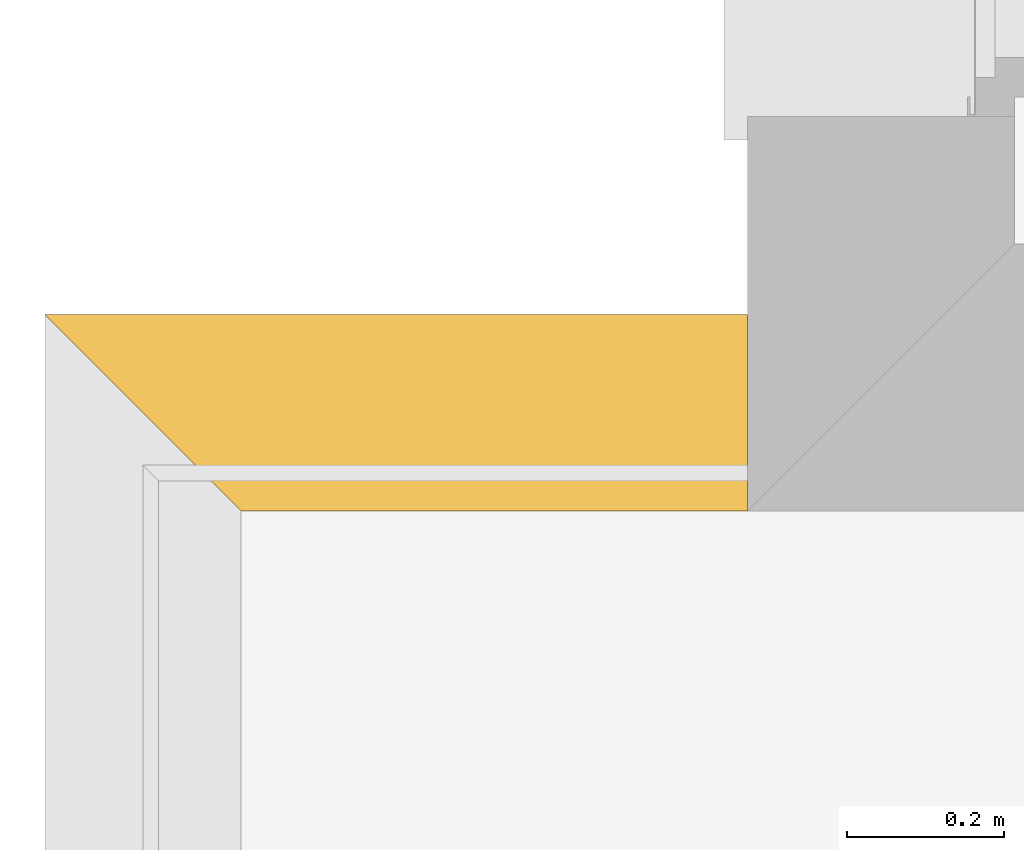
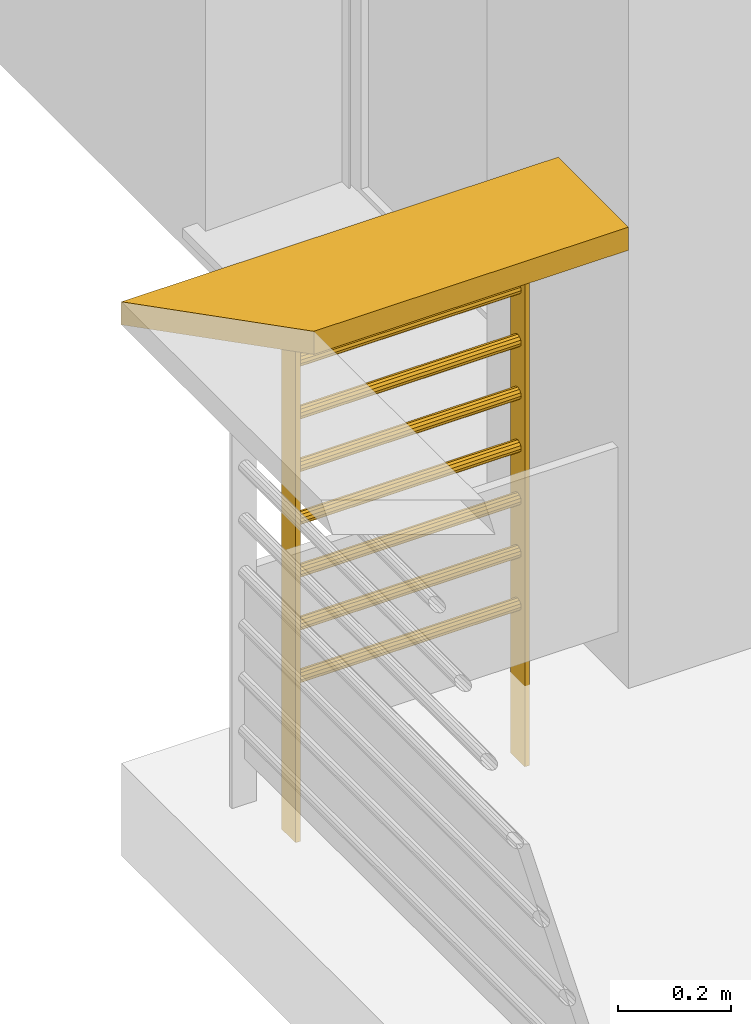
# One storey, part 103 of 164: 1 railing.
"""IFC2X3 building model written with IfcOpenShell, lengths in millimetres."""

from ifc_helpers import new_model, entity, si_unit, converted_unit, derived_unit, money_unit, direction, frame, origin_with_axes, place, context, subcontext, project, spatial, faceted_brep, type_object, element, save


model = new_model("IFC2X3")

# Units and contexts
model_context = context("Model", 3, precision=0.01, world=origin_with_axes(), true_north=direction((0.0, 1.0)))
body_context = subcontext(model_context, "Body", "Model", "MODEL_VIEW")
ifc_project = project(units=[si_unit("LENGTHUNIT", "METRE", prefix="MILLI"), si_unit("AREAUNIT", "SQUARE_METRE"), si_unit("VOLUMEUNIT", "CUBIC_METRE"), converted_unit("PLANEANGLEUNIT", "DEGREE", entity("IfcPlaneAngleMeasure", 0.0174532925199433), si_unit("PLANEANGLEUNIT", "RADIAN"), dimensions=[0, 0, 0, 0, 0, 0, 0]), money_unit("USD"), converted_unit("TIMEUNIT", "Year", entity("IfcTimeMeasure", 31557600.0), si_unit("TIMEUNIT", "SECOND"), dimensions=[0, 0, 1, 0, 0, 0, 0]), si_unit("MASSUNIT", "GRAM", prefix="KILO"), si_unit("THERMODYNAMICTEMPERATUREUNIT", "DEGREE_CELSIUS"), si_unit("LUMINOUSINTENSITYUNIT", "LUMEN"), si_unit("ENERGYUNIT", "JOULE", prefix="MEGA"), derived_unit("THERMALCONDUCTANCEUNIT", [(si_unit("POWERUNIT", "WATT"), 1), (si_unit("LENGTHUNIT", "METRE"), -1), (si_unit("THERMODYNAMICTEMPERATUREUNIT", "KELVIN"), -1)]), derived_unit("SPECIFICHEATCAPACITYUNIT", [(si_unit("ENERGYUNIT", "JOULE"), 1), (si_unit("MASSUNIT", "GRAM", prefix="KILO"), -1), (si_unit("THERMODYNAMICTEMPERATUREUNIT", "KELVIN"), -1)]), derived_unit("MASSDENSITYUNIT", [(si_unit("MASSUNIT", "GRAM", prefix="KILO"), 1), (si_unit("VOLUMEUNIT", "CUBIC_METRE"), -1)])], contexts=[model_context])

# Site, building, storey
site_placement = place(None, origin_with_axes())
site = spatial("IfcSite", under=ifc_project, at=site_placement, Name="Site", CompositionType="ELEMENT")
building_placement = place(site_placement, origin_with_axes())
building = spatial("IfcBuilding", under=site, at=building_placement, Name="Bâtiment", CompositionType="ELEMENT")
storey_placement = place(building_placement, frame((0.0, 0.0, 5750.0), z_axis=(0.0, 0.0, 1.0), x_axis=(1.0, 0.0, 0.0)))
storey = spatial("IfcBuildingStorey", under=building, at=storey_placement, Name="Etage1", CompositionType="ELEMENT", Elevation=5750.0)

# Railing
railing_type = type_object("IfcRailingType", Name="Cadre avec câble 01 20", PredefinedType="NOTDEFINED")
railing_placement = place(storey_placement, frame((2215864.23253741, -638891.8076992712, 0.0), z_axis=(0.0, 0.0, 1.0), x_axis=(1.0, 0.0, 0.0)))
element("IfcRailing", 1, at=railing_placement, inside=storey, type_object=railing_type, Name="Obj.-002", PredefinedType="NOTDEFINED", context=body_context, shape_type="Brep", body=[
    faceted_brep([(124.9965790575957, -125.0, 950.0), (-124.9965790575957, 125.0, 950.0), (770.0732088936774, 125.0, 950.0), (770.0732088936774, -125.0, 950.0), (124.9965790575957, -125.0, 1000.0), (-124.9965790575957, 125.0, 1000.0), (770.0732088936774, 125.0, 1000.0), (770.0732088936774, -125.0, 1000.0)], [[[0, 1, 2, 3]], [[1, 0, 4, 5]], [[1, 5, 6, 2]], [[3, 2, 6, 7]], [[0, 3, 7, 4]], [[5, 4, 7, 6]]]),
    faceted_brep([(145.0, -25.0, -176.0), (155.0, -25.0, -176.0), (155.0, -25.0, 950.0), (145.0, -25.0, 950.0), (145.0, 25.0, -176.0), (155.0, 25.0, -176.0), (155.0, 25.0, 950.0), (145.0, 25.0, 950.0)], [[[0, 1, 2, 3]], [[0, 4, 5, 1]], [[1, 5, 6, 2]], [[3, 2, 6, 7]], [[4, 0, 3, 7]], [[5, 4, 7, 6]]]),
    faceted_brep([(615.0732088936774, -25.0, -176.0), (625.0732088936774, -25.0, -176.0), (625.0732088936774, -25.0, 950.0), (615.0732088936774, -25.0, 950.0), (615.0732088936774, 25.0, -176.0), (625.0732088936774, 25.0, -176.0), (625.0732088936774, 25.0, 950.0), (615.0732088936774, 25.0, 950.0)], [[[0, 1, 2, 3]], [[0, 4, 5, 1]], [[1, 5, 6, 2]], [[3, 2, 6, 7]], [[4, 0, 3, 7]], [[5, 4, 7, 6]]]),
    faceted_brep([(155.0, 10.82531754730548, 156.25), (155.0, 12.5, 162.5), (615.0732088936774, 12.5, 162.5), (615.0732088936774, 10.82531754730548, 156.25), (155.0, 10.82531754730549, 168.75), (155.0, 6.249999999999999, 151.6746824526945), (155.0, 0.0, 150.0), (155.0, -6.250000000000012, 151.6746824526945), (155.0, -10.82531754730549, 156.25), (155.0, -12.5, 162.5), (155.0, -10.82531754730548, 168.75), (155.0, -6.249999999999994, 173.3253175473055), (155.0, 0.0, 175.0), (155.0, 6.250000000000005, 173.3253175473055), (615.0732088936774, 10.82531754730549, 168.75), (615.0732088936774, 6.250000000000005, 173.3253175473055), (615.0732088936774, 0.0, 175.0000000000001), (615.0732088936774, -6.249999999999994, 173.3253175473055), (615.0732088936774, -10.82531754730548, 168.75), (615.0732088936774, -12.5, 162.5), (615.0732088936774, -10.82531754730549, 156.2500000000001), (615.0732088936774, -6.250000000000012, 151.6746824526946), (615.0732088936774, 0.0, 150.0), (615.0732088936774, 6.249999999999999, 151.6746824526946)], [[[0, 1, 2, 3]], [[4, 1, 0, 5, 6, 7, 8, 9, 10, 11, 12, 13]], [[1, 4, 14, 2]], [[3, 2, 14, 15, 16, 17, 18, 19, 20, 21, 22, 23]], [[5, 0, 3, 23]], [[6, 5, 23, 22]], [[7, 6, 22, 21]], [[8, 7, 21, 20]], [[9, 8, 20, 19]], [[10, 9, 19, 18]], [[11, 10, 18, 17]], [[12, 11, 17, 16]], [[13, 12, 16, 15]], [[4, 13, 15, 14]]]),
    faceted_brep([(155.0, 10.82531754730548, 270.5357142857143), (155.0, 12.5, 276.7857142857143), (615.0732088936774, 12.5, 276.7857142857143), (615.0732088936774, 10.82531754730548, 270.5357142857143), (155.0, 10.82531754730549, 283.0357142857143), (155.0, 6.249999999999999, 265.9603967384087), (155.0, 0.0, 264.2857142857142), (155.0, -6.250000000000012, 265.9603967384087), (155.0, -10.82531754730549, 270.5357142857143), (155.0, -12.5, 276.7857142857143), (155.0, -10.82531754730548, 283.0357142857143), (155.0, -6.249999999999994, 287.6110318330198), (155.0, 0.0, 289.2857142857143), (155.0, 6.250000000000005, 287.6110318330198), (615.0732088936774, 10.82531754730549, 283.0357142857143), (615.0732088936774, 6.250000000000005, 287.6110318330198), (615.0732088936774, 0.0, 289.2857142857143), (615.0732088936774, -6.249999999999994, 287.6110318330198), (615.0732088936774, -10.82531754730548, 283.0357142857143), (615.0732088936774, -12.5, 276.7857142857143), (615.0732088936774, -10.82531754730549, 270.5357142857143), (615.0732088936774, -6.250000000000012, 265.9603967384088), (615.0732088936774, 0.0, 264.2857142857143), (615.0732088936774, 6.249999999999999, 265.9603967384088)], [[[0, 1, 2, 3]], [[4, 1, 0, 5, 6, 7, 8, 9, 10, 11, 12, 13]], [[1, 4, 14, 2]], [[3, 2, 14, 15, 16, 17, 18, 19, 20, 21, 22, 23]], [[5, 0, 3, 23]], [[6, 5, 23, 22]], [[7, 6, 22, 21]], [[8, 7, 21, 20]], [[9, 8, 20, 19]], [[10, 9, 19, 18]], [[11, 10, 18, 17]], [[12, 11, 17, 16]], [[13, 12, 16, 15]], [[4, 13, 15, 14]]]),
    faceted_brep([(155.0, 10.82531754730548, 384.8214285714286), (155.0, 12.5, 391.0714285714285), (615.0732088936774, 12.5, 391.0714285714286), (615.0732088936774, 10.82531754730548, 384.8214285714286), (155.0, 10.82531754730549, 397.3214285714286), (155.0, 6.249999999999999, 380.2461110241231), (155.0, 0.0, 378.5714285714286), (155.0, -6.250000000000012, 380.2461110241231), (155.0, -10.82531754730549, 384.8214285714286), (155.0, -12.5, 391.0714285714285), (155.0, -10.82531754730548, 397.3214285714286), (155.0, -6.249999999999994, 401.896746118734), (155.0, 0.0, 403.5714285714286), (155.0, 6.250000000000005, 401.896746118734), (615.0732088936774, 10.82531754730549, 397.3214285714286), (615.0732088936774, 6.250000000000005, 401.896746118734), (615.0732088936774, 0.0, 403.5714285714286), (615.0732088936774, -6.249999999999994, 401.896746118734), (615.0732088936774, -10.82531754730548, 397.3214285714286), (615.0732088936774, -12.5, 391.0714285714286), (615.0732088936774, -10.82531754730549, 384.8214285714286), (615.0732088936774, -6.250000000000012, 380.2461110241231), (615.0732088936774, 0.0, 378.5714285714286), (615.0732088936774, 6.249999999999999, 380.2461110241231)], [[[0, 1, 2, 3]], [[4, 1, 0, 5, 6, 7, 8, 9, 10, 11, 12, 13]], [[1, 4, 14, 2]], [[3, 2, 14, 15, 16, 17, 18, 19, 20, 21, 22, 23]], [[5, 0, 3, 23]], [[6, 5, 23, 22]], [[7, 6, 22, 21]], [[8, 7, 21, 20]], [[9, 8, 20, 19]], [[10, 9, 19, 18]], [[11, 10, 18, 17]], [[12, 11, 17, 16]], [[13, 12, 16, 15]], [[4, 13, 15, 14]]]),
    faceted_brep([(155.0, 10.82531754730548, 499.1071428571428), (155.0, 12.5, 505.3571428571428), (615.0732088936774, 12.5, 505.3571428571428), (615.0732088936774, 10.82531754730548, 499.1071428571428), (155.0, 10.82531754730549, 511.6071428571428), (155.0, 6.249999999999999, 494.5318253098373), (155.0, 0.0, 492.8571428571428), (155.0, -6.250000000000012, 494.5318253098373), (155.0, -10.82531754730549, 499.1071428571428), (155.0, -12.5, 505.3571428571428), (155.0, -10.82531754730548, 511.6071428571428), (155.0, -6.249999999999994, 516.1824604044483), (155.0, 0.0, 517.8571428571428), (155.0, 6.250000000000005, 516.1824604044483), (615.0732088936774, 10.82531754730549, 511.6071428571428), (615.0732088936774, 6.250000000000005, 516.1824604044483), (615.0732088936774, 0.0, 517.8571428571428), (615.0732088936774, -6.249999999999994, 516.1824604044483), (615.0732088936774, -10.82531754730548, 511.6071428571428), (615.0732088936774, -12.5, 505.3571428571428), (615.0732088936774, -10.82531754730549, 499.1071428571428), (615.0732088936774, -6.250000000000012, 494.5318253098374), (615.0732088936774, 0.0, 492.8571428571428), (615.0732088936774, 6.249999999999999, 494.5318253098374)], [[[0, 1, 2, 3]], [[4, 1, 0, 5, 6, 7, 8, 9, 10, 11, 12, 13]], [[1, 4, 14, 2]], [[3, 2, 14, 15, 16, 17, 18, 19, 20, 21, 22, 23]], [[5, 0, 3, 23]], [[6, 5, 23, 22]], [[7, 6, 22, 21]], [[8, 7, 21, 20]], [[9, 8, 20, 19]], [[10, 9, 19, 18]], [[11, 10, 18, 17]], [[12, 11, 17, 16]], [[13, 12, 16, 15]], [[4, 13, 15, 14]]]),
    faceted_brep([(155.0, 10.82531754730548, 613.3928571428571), (155.0, 12.5, 619.642857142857), (615.0732088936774, 12.5, 619.6428571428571), (615.0732088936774, 10.82531754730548, 613.3928571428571), (155.0, 10.82531754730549, 625.892857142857), (155.0, 6.249999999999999, 608.8175395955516), (155.0, 0.0, 607.1428571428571), (155.0, -6.250000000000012, 608.8175395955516), (155.0, -10.82531754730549, 613.3928571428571), (155.0, -12.5, 619.642857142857), (155.0, -10.82531754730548, 625.892857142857), (155.0, -6.249999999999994, 630.4681746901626), (155.0, 0.0, 632.1428571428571), (155.0, 6.250000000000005, 630.4681746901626), (615.0732088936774, 10.82531754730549, 625.8928571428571), (615.0732088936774, 6.250000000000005, 630.4681746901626), (615.0732088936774, 0.0, 632.1428571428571), (615.0732088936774, -6.249999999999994, 630.4681746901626), (615.0732088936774, -10.82531754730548, 625.8928571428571), (615.0732088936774, -12.5, 619.6428571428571), (615.0732088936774, -10.82531754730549, 613.3928571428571), (615.0732088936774, -6.250000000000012, 608.8175395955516), (615.0732088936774, 0.0, 607.1428571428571), (615.0732088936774, 6.249999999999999, 608.8175395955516)], [[[0, 1, 2, 3]], [[4, 1, 0, 5, 6, 7, 8, 9, 10, 11, 12, 13]], [[1, 4, 14, 2]], [[3, 2, 14, 15, 16, 17, 18, 19, 20, 21, 22, 23]], [[5, 0, 3, 23]], [[6, 5, 23, 22]], [[7, 6, 22, 21]], [[8, 7, 21, 20]], [[9, 8, 20, 19]], [[10, 9, 19, 18]], [[11, 10, 18, 17]], [[12, 11, 17, 16]], [[13, 12, 16, 15]], [[4, 13, 15, 14]]]),
    faceted_brep([(155.0, 10.82531754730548, 727.6785714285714), (155.0, 12.5, 733.9285714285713), (615.0732088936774, 12.5, 733.9285714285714), (615.0732088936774, 10.82531754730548, 727.6785714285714), (155.0, 10.82531754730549, 740.1785714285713), (155.0, 6.249999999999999, 723.1032538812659), (155.0, 0.0, 721.4285714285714), (155.0, -6.250000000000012, 723.1032538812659), (155.0, -10.82531754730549, 727.6785714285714), (155.0, -12.5, 733.9285714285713), (155.0, -10.82531754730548, 740.1785714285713), (155.0, -6.249999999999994, 744.7538889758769), (155.0, 0.0, 746.4285714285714), (155.0, 6.250000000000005, 744.7538889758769), (615.0732088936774, 10.82531754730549, 740.1785714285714), (615.0732088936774, 6.250000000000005, 744.7538889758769), (615.0732088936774, 0.0, 746.4285714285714), (615.0732088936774, -6.249999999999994, 744.7538889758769), (615.0732088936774, -10.82531754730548, 740.1785714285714), (615.0732088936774, -12.5, 733.9285714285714), (615.0732088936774, -10.82531754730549, 727.6785714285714), (615.0732088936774, -6.250000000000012, 723.1032538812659), (615.0732088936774, 0.0, 721.4285714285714), (615.0732088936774, 6.249999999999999, 723.1032538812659)], [[[0, 1, 2, 3]], [[4, 1, 0, 5, 6, 7, 8, 9, 10, 11, 12, 13]], [[1, 4, 14, 2]], [[3, 2, 14, 15, 16, 17, 18, 19, 20, 21, 22, 23]], [[5, 0, 3, 23]], [[6, 5, 23, 22]], [[7, 6, 22, 21]], [[8, 7, 21, 20]], [[9, 8, 20, 19]], [[10, 9, 19, 18]], [[11, 10, 18, 17]], [[12, 11, 17, 16]], [[13, 12, 16, 15]], [[4, 13, 15, 14]]]),
    faceted_brep([(155.0, 10.82531754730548, 841.9642857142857), (155.0, 12.5, 848.2142857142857), (615.0732088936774, 12.5, 848.2142857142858), (615.0732088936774, 10.82531754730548, 841.9642857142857), (155.0, 10.82531754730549, 854.4642857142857), (155.0, 6.249999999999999, 837.3889681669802), (155.0, 0.0, 835.7142857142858), (155.0, -6.250000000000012, 837.3889681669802), (155.0, -10.82531754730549, 841.9642857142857), (155.0, -12.5, 848.2142857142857), (155.0, -10.82531754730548, 854.4642857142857), (155.0, -6.249999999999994, 859.0396032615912), (155.0, 0.0, 860.7142857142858), (155.0, 6.250000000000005, 859.0396032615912), (615.0732088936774, 10.82531754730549, 854.4642857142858), (615.0732088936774, 6.250000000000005, 859.0396032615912), (615.0732088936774, 0.0, 860.7142857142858), (615.0732088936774, -6.249999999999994, 859.0396032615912), (615.0732088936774, -10.82531754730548, 854.4642857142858), (615.0732088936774, -12.5, 848.2142857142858), (615.0732088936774, -10.82531754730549, 841.9642857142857), (615.0732088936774, -6.250000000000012, 837.3889681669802), (615.0732088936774, 0.0, 835.7142857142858), (615.0732088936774, 6.249999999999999, 837.3889681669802)], [[[0, 1, 2, 3]], [[4, 1, 0, 5, 6, 7, 8, 9, 10, 11, 12, 13]], [[1, 4, 14, 2]], [[3, 2, 14, 15, 16, 17, 18, 19, 20, 21, 22, 23]], [[5, 0, 3, 23]], [[6, 5, 23, 22]], [[7, 6, 22, 21]], [[8, 7, 21, 20]], [[9, 8, 20, 19]], [[10, 9, 19, 18]], [[11, 10, 18, 17]], [[12, 11, 17, 16]], [[13, 12, 16, 15]], [[4, 13, 15, 14]]]),
])

save(model, "model.ifc")
